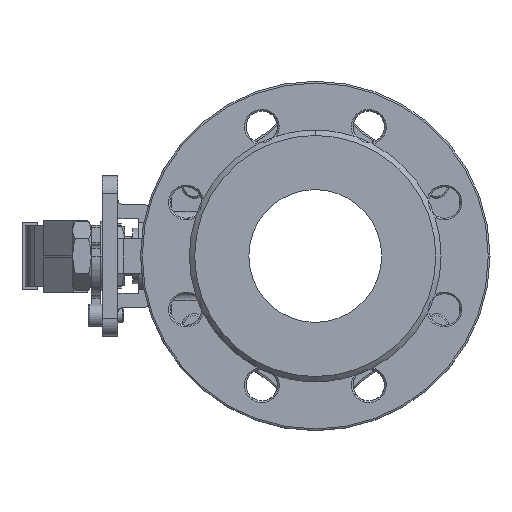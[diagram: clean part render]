
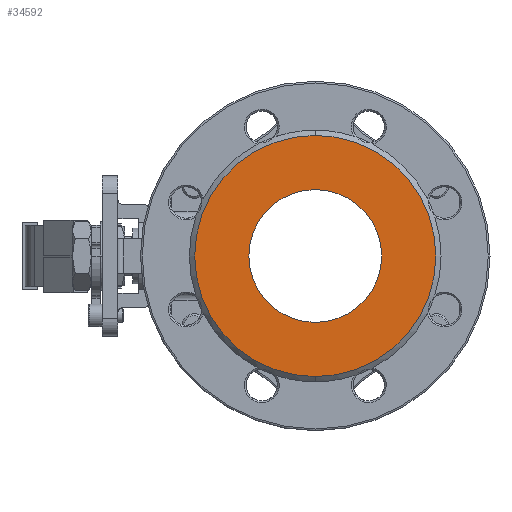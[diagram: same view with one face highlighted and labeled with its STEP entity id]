
A CAD part, left-side view. The second image highlights one B-rep face of the part: STEP entity #34592.
In plain terms, the highlighted planar face has unit normal (-1, 0, 0).
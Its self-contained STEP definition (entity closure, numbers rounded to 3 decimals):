
#304 = ORIENTED_EDGE ( 'NONE', *, *, #8336, .F. ) ;
#708 = FACE_OUTER_BOUND ( 'NONE', #23739, .T. ) ;
#885 = DIRECTION ( 'NONE',  ( -1., 0., 0. ) ) ;
#2368 = AXIS2_PLACEMENT_3D ( 'NONE', #39576, #26908, #39713 ) ;
#3842 = VERTEX_POINT ( 'NONE', #29397 ) ;
#3953 = CARTESIAN_POINT ( 'NONE',  ( -78., 0., 38. ) ) ;
#4249 = CIRCLE ( 'NONE', #2368, 69. ) ;
#5957 = AXIS2_PLACEMENT_3D ( 'NONE', #32755, #12941, #39441 ) ;
#6071 = DIRECTION ( 'NONE',  ( -1., 0., 0. ) ) ;
#6206 = DIRECTION ( 'NONE',  ( 0., 0., 1. ) ) ;
#8112 = VERTEX_POINT ( 'NONE', #10629 ) ;
#8336 = EDGE_CURVE ( 'NONE', #3842, #17995, #31444, .T. ) ;
#10629 = CARTESIAN_POINT ( 'NONE',  ( -78., 0., -69. ) ) ;
#12941 = DIRECTION ( 'NONE',  ( -1., 0., 0. ) ) ;
#13041 = EDGE_CURVE ( 'NONE', #8112, #37411, #14510, .T. ) ;
#13635 = AXIS2_PLACEMENT_3D ( 'NONE', #20606, #885, #23760 ) ;
#13702 = FACE_BOUND ( 'NONE', #40451, .T. ) ;
#14510 = CIRCLE ( 'NONE', #15814, 69. ) ;
#15814 = AXIS2_PLACEMENT_3D ( 'NONE', #30871, #41212, #31017 ) ;
#17013 = ORIENTED_EDGE ( 'NONE', *, *, #30932, .F. ) ;
#17689 = CIRCLE ( 'NONE', #26859, 38. ) ;
#17995 = VERTEX_POINT ( 'NONE', #3953 ) ;
#19632 = ORIENTED_EDGE ( 'NONE', *, *, #13041, .T. ) ;
#20606 = CARTESIAN_POINT ( 'NONE',  ( -78., 0., 38. ) ) ;
#23739 = EDGE_LOOP ( 'NONE', ( #19632, #34159 ) ) ;
#23760 = DIRECTION ( 'NONE',  ( 0., 0., 1. ) ) ;
#24202 = CARTESIAN_POINT ( 'NONE',  ( -78., 0., 69. ) ) ;
#25889 = CARTESIAN_POINT ( 'NONE',  ( -78., 0., 0. ) ) ;
#26859 = AXIS2_PLACEMENT_3D ( 'NONE', #25889, #6071, #6206 ) ;
#26908 = DIRECTION ( 'NONE',  ( -1., 0., 0. ) ) ;
#28606 = EDGE_CURVE ( 'NONE', #37411, #8112, #4249, .T. ) ;
#29397 = CARTESIAN_POINT ( 'NONE',  ( -78., 0., -38. ) ) ;
#30270 = PLANE ( 'NONE',  #13635 ) ;
#30871 = CARTESIAN_POINT ( 'NONE',  ( -78., 0., 0. ) ) ;
#30932 = EDGE_CURVE ( 'NONE', #17995, #3842, #17689, .T. ) ;
#31017 = DIRECTION ( 'NONE',  ( 0., 0., 1. ) ) ;
#31444 = CIRCLE ( 'NONE', #5957, 38. ) ;
#32755 = CARTESIAN_POINT ( 'NONE',  ( -78., 0., 0. ) ) ;
#34159 = ORIENTED_EDGE ( 'NONE', *, *, #28606, .T. ) ;
#34592 = ADVANCED_FACE ( 'NONE', ( #708, #13702 ), #30270, .T. ) ;
#37411 = VERTEX_POINT ( 'NONE', #24202 ) ;
#39441 = DIRECTION ( 'NONE',  ( 0., 0., 1. ) ) ;
#39576 = CARTESIAN_POINT ( 'NONE',  ( -78., 0., 0. ) ) ;
#39713 = DIRECTION ( 'NONE',  ( 0., 0., 1. ) ) ;
#40451 = EDGE_LOOP ( 'NONE', ( #17013, #304 ) ) ;
#41212 = DIRECTION ( 'NONE',  ( -1., 0., 0. ) ) ;
